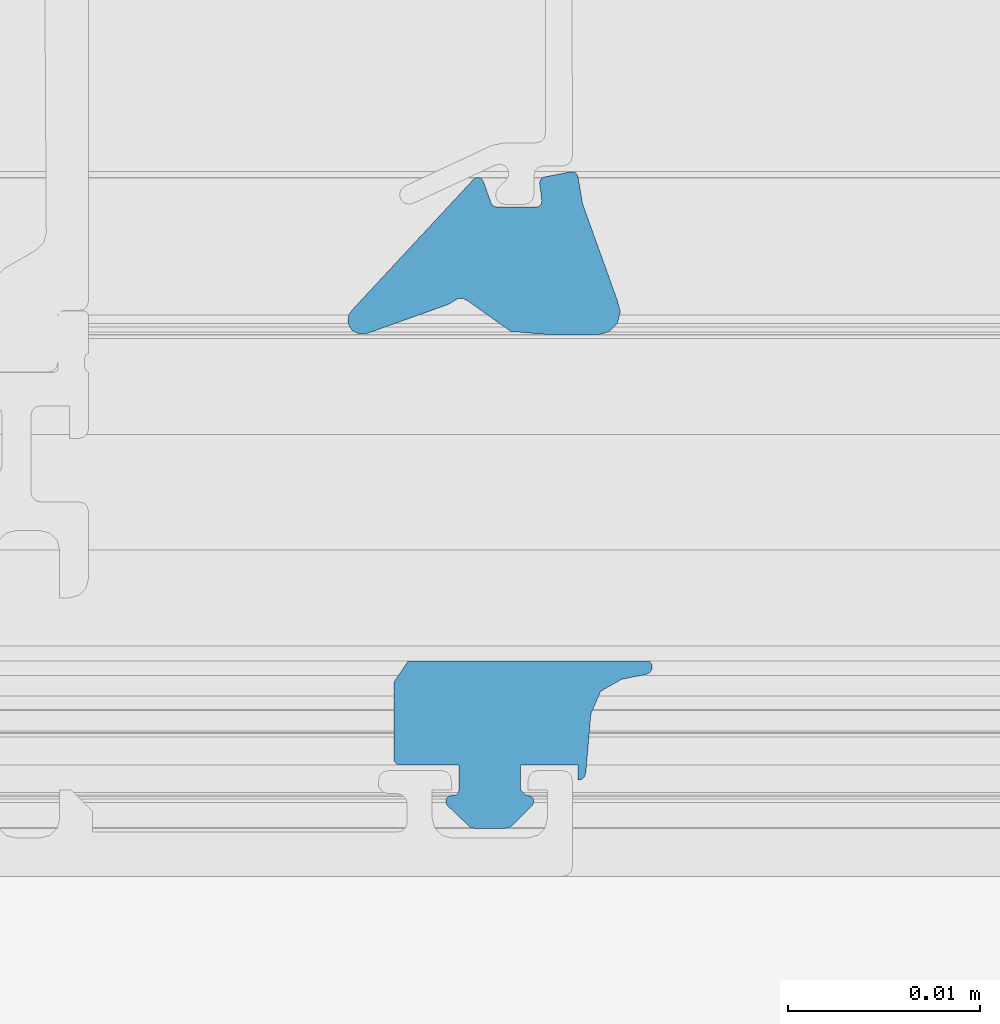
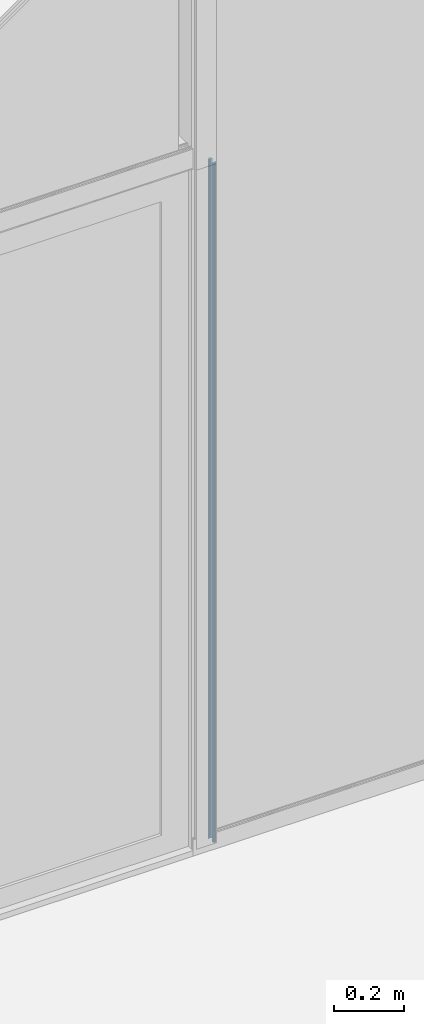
# One storey, part 26 of 69: 1 building element part, 2 elements without a shape of their own.
"""IFC2X3 building model written with IfcOpenShell, lengths in millimetres."""

from ifc_helpers import new_model, entity, si_unit, converted_unit, derived_unit, money_unit, direction, frame, origin_with_axes, place, context, subcontext, project, spatial, faceted_brep, material, type_object, element, aggregate, save


model = new_model("IFC2X3")

# Units and contexts
model_context = context("Model", 3, precision=0.01, world=origin_with_axes(), true_north=direction((0.0, 1.0)))
body_context = subcontext(model_context, "Body", "Model", "MODEL_VIEW")
ifc_project = project(units=[si_unit("LENGTHUNIT", "METRE", prefix="MILLI"), si_unit("AREAUNIT", "SQUARE_METRE"), si_unit("VOLUMEUNIT", "CUBIC_METRE"), converted_unit("PLANEANGLEUNIT", "DEGREE", entity("IfcPlaneAngleMeasure", 0.0174532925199), si_unit("PLANEANGLEUNIT", "RADIAN"), dimensions=[0, 0, 0, 0, 0, 0, 0]), si_unit("SOLIDANGLEUNIT", "STERADIAN"), money_unit("EUR"), converted_unit("TIMEUNIT", "Year", entity("IfcTimeMeasure", 31556926.0), si_unit("TIMEUNIT", "SECOND"), dimensions=[0, 0, 1, 0, 0, 0, 0]), si_unit("MASSUNIT", "GRAM", prefix="KILO"), si_unit("THERMODYNAMICTEMPERATUREUNIT", "DEGREE_CELSIUS"), si_unit("LUMINOUSINTENSITYUNIT", "LUMEN"), si_unit("ENERGYUNIT", "JOULE", prefix="MEGA"), derived_unit("THERMALCONDUCTANCEUNIT", [(si_unit("POWERUNIT", "WATT"), 1), (si_unit("LENGTHUNIT", "METRE"), -1), (si_unit("THERMODYNAMICTEMPERATUREUNIT", "KELVIN"), -1)]), derived_unit("SPECIFICHEATCAPACITYUNIT", [(si_unit("ENERGYUNIT", "JOULE"), 1), (si_unit("MASSUNIT", "GRAM", prefix="KILO"), -1), (si_unit("THERMODYNAMICTEMPERATUREUNIT", "KELVIN"), -1)]), derived_unit("MASSDENSITYUNIT", [(si_unit("MASSUNIT", "GRAM", prefix="KILO"), 1), (si_unit("VOLUMEUNIT", "CUBIC_METRE"), -1)])], contexts=[model_context])

# Site, building, storey
site_placement = place(None, origin_with_axes())
site = spatial("IfcSite", under=ifc_project, at=site_placement, Name="Puškini 31, Narva", CompositionType="ELEMENT")
building_placement = place(site_placement, origin_with_axes())
building = spatial("IfcBuilding", under=site, at=building_placement, Name="Narva Riigigümnaasium", CompositionType="ELEMENT")
storey_placement = place(building_placement, origin_with_axes())
storey = spatial("IfcBuildingStorey", under=building, at=storey_placement, Name="1.korrus 0.00", CompositionType="ELEMENT", Elevation=0.0)

# Curtain wall, member, building element part
curtain_wall_type = type_object("IfcCurtainWallType", Name="Curtain Wall Type", PredefinedType="NOTDEFINED")
curtain_wall_placement = place(storey_placement, frame((18229.9603698, 152620.000001, -0.397158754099), z_axis=(0.0, 0.0, 1.0), x_axis=(1.0, 0.0, 0.0)))
curtain_wall = element("IfcCurtainWall", 1, at=curtain_wall_placement, inside=storey, type_object=curtain_wall_type, Name="G-KLF-01-1")
member_type = type_object("IfcMemberType", Name="82 x 35", PredefinedType="MULLION")
member_placement = place(curtain_wall_placement, frame((3158.7233041, 0.0, 0.0), z_axis=(0.0, 0.0, 1.0), x_axis=(1.0, 0.0, 0.0)))
member = element("IfcMember", 2, at=member_placement, type_object=member_type, Name="G-SKLF-01-raam", ObjectType="MULLION")
aggregate(curtain_wall, [member])
ifc_material = material(Name="Membraan - Veekindel")
building_element_part_placement = place(member_placement, origin_with_axes())
building_element_part = element("IfcBuildingElementPart", 3, at=building_element_part_placement, material=ifc_material, Name="Membraan - Veekindel", context=body_context, shape_type="Brep", body=[
    faceted_brep([(72.7204882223, -15.0100099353, 20.0), (74.9898926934, -16.6230552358, 20.0), (74.9898926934, -16.6230552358, 2400.00003439), (72.7204882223, -15.0100099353, 2400.00003439), (72.5011668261, -14.8999349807, 20.0), (72.2558878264, -14.9074571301, 20.0), (72.0437237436, -15.0307647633, 20.0), (71.7536994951, -15.2121692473, 20.0), (67.4982927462, -16.7341218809, 20.0), (67.0740702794, -16.7580150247, 20.0), (66.7049453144, -16.5475813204, 20.0), (66.5093924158, -16.1703616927, 20.0), (66.5501763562, -15.7474287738, 20.0), (66.8142070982, -15.4145273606, 20.0), (73.0645590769, -8.68581760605, 20.0), (73.192689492, -8.61180126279, 20.0), (73.3406152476, -8.60808734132, 20.0), (73.4722984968, -8.67558063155, 20.0), (73.5556584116, -8.79783833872, 20.0), (73.9761212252, -9.95305042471, 20.0), (74.0859560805, -10.096189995, 20.0), (74.2580290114, -10.1504443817, 20.0), (76.3123574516, -10.1504443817, 20.0), (76.4731258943, -10.1037298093, 20.0), (76.5838261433, -9.97813443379, 20.0), (76.6099827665, -9.81277248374, 20.0), (76.4957458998, -8.91024871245, 20.0), (76.5142922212, -8.76250903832, 20.0), (76.601588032, -8.64188392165, 20.0), (76.7361285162, -8.57808865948, 20.0), (78.1361285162, -8.30595622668, 20.0), (78.2917480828, -8.3170330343, 20.0), (78.4207620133, -8.40475732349, 20.0), (78.4882789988, -8.54540440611, 20.0), (78.7418652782, -10.0036443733, 20.0), (80.5405112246, -15.001346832, 20.0), (80.7012805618, -15.6006926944, 20.0), (80.5411647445, -16.2002134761, 20.0), (80.1029794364, -16.6395947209, 20.0), (79.5038972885, -16.8013439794, 20.0), (77.1927259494, -16.806401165, 20.0), (77.1927259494, -16.806401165, 2400.00003439), (79.5038972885, -16.8013439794, 2400.00003439), (80.1029794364, -16.6395947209, 2400.00003439), (80.5411647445, -16.2002134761, 2400.00003439), (80.7012805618, -15.6006926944, 2400.00003439), (80.5405112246, -15.001346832, 2400.00003439), (78.7418652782, -10.0036443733, 2400.00003439), (78.4882789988, -8.54540440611, 2400.00003439), (78.4207620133, -8.40475732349, 2400.00003439), (78.2917480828, -8.3170330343, 2400.00003439), (78.1361285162, -8.30595622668, 2400.00003439), (76.7361285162, -8.57808865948, 2400.00003439), (76.601588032, -8.64188392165, 2400.00003439), (76.5142922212, -8.76250903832, 2400.00003439), (76.4957458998, -8.91024871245, 2400.00003439), (76.6099827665, -9.81277248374, 2400.00003439), (76.5838261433, -9.97813443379, 2400.00003439), (76.4731258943, -10.1037298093, 2400.00003439), (76.3123574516, -10.1504443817, 2400.00003439), (74.2580290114, -10.1504443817, 2400.00003439), (74.0859560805, -10.096189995, 2400.00003439), (73.9761212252, -9.95305042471, 2400.00003439), (73.5556584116, -8.79783833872, 2400.00003439), (73.4722984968, -8.67558063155, 2400.00003439), (73.3406152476, -8.60808734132, 2400.00003439), (73.192689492, -8.61180126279, 2400.00003439), (73.0645590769, -8.68581760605, 2400.00003439), (66.8142070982, -15.4145273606, 2400.00003439), (66.5501763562, -15.7474287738, 2400.00003439), (66.5093924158, -16.1703616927, 2400.00003439), (66.7049453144, -16.5475813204, 2400.00003439), (67.0740702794, -16.7580150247, 2400.00003439), (67.4982927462, -16.7341218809, 2400.00003439), (71.7536994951, -15.2121692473, 2400.00003439), (72.0437237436, -15.0307647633, 2400.00003439), (72.2558878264, -14.9074571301, 2400.00003439), (72.5011668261, -14.8999349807, 2400.00003439)], [[[0, 1, 2, 3]], [[1, 0, 4, 5, 6, 7, 8, 9, 10, 11, 12, 13, 14, 15, 16, 17, 18, 19, 20, 21, 22, 23, 24, 25, 26, 27, 28, 29, 30, 31, 32, 33, 34, 35, 36, 37, 38, 39, 40]], [[1, 40, 41, 2]], [[2, 41, 42, 43, 44, 45, 46, 47, 48, 49, 50, 51, 52, 53, 54, 55, 56, 57, 58, 59, 60, 61, 62, 63, 64, 65, 66, 67, 68, 69, 70, 71, 72, 73, 74, 75, 76, 77, 3]], [[4, 0, 3, 77]], [[5, 4, 77, 76]], [[6, 5, 76, 75]], [[7, 6, 75, 74]], [[8, 7, 74, 73]], [[9, 8, 73, 72]], [[10, 9, 72, 71]], [[11, 10, 71, 70]], [[12, 11, 70, 69]], [[13, 12, 69, 68]], [[14, 13, 68, 67]], [[15, 14, 67, 66]], [[16, 15, 66, 65]], [[17, 16, 65, 64]], [[18, 17, 64, 63]], [[19, 18, 63, 62]], [[20, 19, 62, 61]], [[21, 20, 61, 60]], [[22, 21, 60, 59]], [[23, 22, 59, 58]], [[24, 23, 58, 57]], [[25, 24, 57, 56]], [[26, 25, 56, 55]], [[27, 26, 55, 54]], [[28, 27, 54, 53]], [[29, 28, 53, 52]], [[30, 29, 52, 51]], [[31, 30, 51, 50]], [[32, 31, 50, 49]], [[33, 32, 49, 48]], [[34, 33, 48, 47]], [[35, 34, 47, 46]], [[36, 35, 46, 45]], [[37, 36, 45, 44]], [[38, 37, 44, 43]], [[39, 38, 43, 42]], [[40, 39, 42, 41]]]),
    faceted_brep([(71.6876987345, -41.3119145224, 20.0), (72.8904310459, -42.4618935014, 20.0), (72.8904310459, -42.4618935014, 2400.00003439), (71.6876987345, -41.3119145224, 2400.00003439), (71.6057623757, -41.1582990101, 20.0), (71.6229356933, -40.9850466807, 20.0), (71.7334350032, -40.8505059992, 20.0), (71.900046, -40.799988, 20.0), (72.00004, -40.799988, 20.0), (72.15004, -40.7597956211, 20.0), (72.2598476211, -40.649988, 20.0), (72.30004, -40.499988, 20.0), (72.30004, -39.200012, 20.0), (71.30004, -39.2000007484, 20.0), (69.2000038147, -39.2000007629, 20.0), (69.0500179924, -39.159812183, 20.0), (68.9402207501, -39.0500149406, 20.0), (68.9000321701, -38.9000291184, 20.0), (68.8997554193, -34.9006000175, 20.0), (69.647137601, -33.7902637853, 20.0), (82.2108941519, -33.7902637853, 20.0), (82.3423779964, -33.9722990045, 20.0), (82.3536959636, -34.1965683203, 20.0), (82.2412066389, -34.3909158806, 20.0), (82.041102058, -34.4928127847, 20.0), (80.7800222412, -34.7379988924, 20.0), (79.6755028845, -35.3629012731, 20.0), (79.1693613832, -36.5266395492, 20.0), (78.9000324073, -39.6000097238, 20.0), (78.8464370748, -39.8000230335, 20.0), (78.7000161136, -39.9464425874, 20.0), (78.5000022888, -40.0000359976, 20.0), (78.5000022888, -39.2000007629, 20.0), (76.5000210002, -39.200012, 20.0), (75.500021, -39.200012, 20.0), (75.500021, -40.499988, 20.0), (75.800021, -40.799988, 20.0), (75.9000173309, -40.799988, 20.0), (76.0666568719, -40.8505228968, 20.0), (76.1771585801, -40.9851032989, 20.0), (76.1942964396, -41.1583915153, 20.0), (76.1122970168, -41.3120098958, 20.0), (75.0716106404, -42.353428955, 20.0), (74.9093558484, -42.461906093, 20.0), (74.717932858, -42.5, 20.0), (73.0818844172, -42.5, 20.0), (73.0818844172, -42.5, 2400.00003439), (74.717932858, -42.5, 2400.00003439), (74.9093558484, -42.461906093, 2400.00003439), (75.0716106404, -42.353428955, 2400.00003439), (76.1122970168, -41.3120098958, 2400.00003439), (76.1942964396, -41.1583915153, 2400.00003439), (76.1771585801, -40.9851032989, 2400.00003439), (76.0666568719, -40.8505228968, 2400.00003439), (75.9000173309, -40.799988, 2400.00003439), (75.800021, -40.799988, 2400.00003439), (75.500021, -40.499988, 2400.00003439), (75.500021, -39.200012, 2400.00003439), (76.5000210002, -39.200012, 2400.00003439), (78.5000022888, -39.2000007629, 2400.00003439), (78.5000022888, -40.0000359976, 2400.00003439), (78.7000161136, -39.9464425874, 2400.00003439), (78.8464370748, -39.8000230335, 2400.00003439), (78.9000324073, -39.6000097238, 2400.00003439), (79.1693613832, -36.5266395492, 2400.00003439), (79.6755028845, -35.3629012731, 2400.00003439), (80.7800222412, -34.7379988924, 2400.00003439), (82.041102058, -34.4928127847, 2400.00003439), (82.2412066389, -34.3909158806, 2400.00003439), (82.3536959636, -34.1965683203, 2400.00003439), (82.3423779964, -33.9722990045, 2400.00003439), (82.2108941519, -33.7902637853, 2400.00003439), (69.647137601, -33.7902637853, 2400.00003439), (68.8997554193, -34.9006000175, 2400.00003439), (68.9000321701, -38.9000291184, 2400.00003439), (68.9402207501, -39.0500149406, 2400.00003439), (69.0500179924, -39.159812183, 2400.00003439), (69.2000038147, -39.2000007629, 2400.00003439), (71.30004, -39.2000007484, 2400.00003439), (72.30004, -39.200012, 2400.00003439), (72.30004, -40.499988, 2400.00003439), (72.2598476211, -40.649988, 2400.00003439), (72.15004, -40.7597956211, 2400.00003439), (72.00004, -40.799988, 2400.00003439), (71.900046, -40.799988, 2400.00003439), (71.7334350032, -40.8505059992, 2400.00003439), (71.6229356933, -40.9850466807, 2400.00003439), (71.6057623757, -41.1582990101, 2400.00003439)], [[[0, 1, 2, 3]], [[1, 0, 4, 5, 6, 7, 8, 9, 10, 11, 12, 13, 14, 15, 16, 17, 18, 19, 20, 21, 22, 23, 24, 25, 26, 27, 28, 29, 30, 31, 32, 33, 34, 35, 36, 37, 38, 39, 40, 41, 42, 43, 44, 45]], [[1, 45, 46, 2]], [[2, 46, 47, 48, 49, 50, 51, 52, 53, 54, 55, 56, 57, 58, 59, 60, 61, 62, 63, 64, 65, 66, 67, 68, 69, 70, 71, 72, 73, 74, 75, 76, 77, 78, 79, 80, 81, 82, 83, 84, 85, 86, 87, 3]], [[4, 0, 3, 87]], [[5, 4, 87, 86]], [[6, 5, 86, 85]], [[7, 6, 85, 84]], [[8, 7, 84, 83]], [[9, 8, 83, 82]], [[10, 9, 82, 81]], [[11, 10, 81, 80]], [[12, 11, 80, 79]], [[13, 12, 79, 78]], [[14, 13, 78, 77]], [[15, 14, 77, 76]], [[16, 15, 76, 75]], [[17, 16, 75, 74]], [[18, 17, 74, 73]], [[19, 18, 73, 72]], [[20, 19, 72, 71]], [[21, 20, 71, 70]], [[22, 21, 70, 69]], [[23, 22, 69, 68]], [[24, 23, 68, 67]], [[25, 24, 67, 66]], [[26, 25, 66, 65]], [[27, 26, 65, 64]], [[28, 27, 64, 63]], [[29, 28, 63, 62]], [[30, 29, 62, 61]], [[31, 30, 61, 60]], [[32, 31, 60, 59]], [[33, 32, 59, 58]], [[34, 33, 58, 57]], [[35, 34, 57, 56]], [[36, 35, 56, 55]], [[37, 36, 55, 54]], [[38, 37, 54, 53]], [[39, 38, 53, 52]], [[40, 39, 52, 51]], [[41, 40, 51, 50]], [[42, 41, 50, 49]], [[43, 42, 49, 48]], [[44, 43, 48, 47]], [[45, 44, 47, 46]]]),
])
aggregate(member, [building_element_part])

save(model, "model.ifc")
